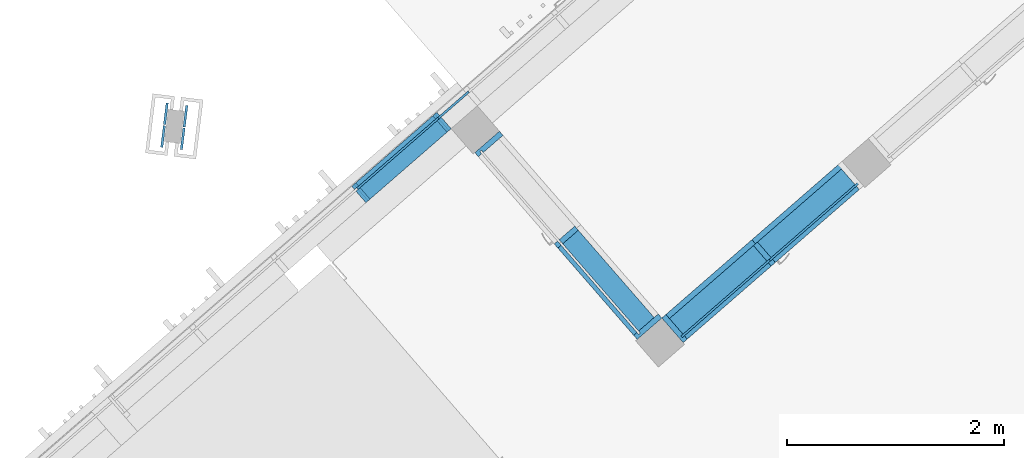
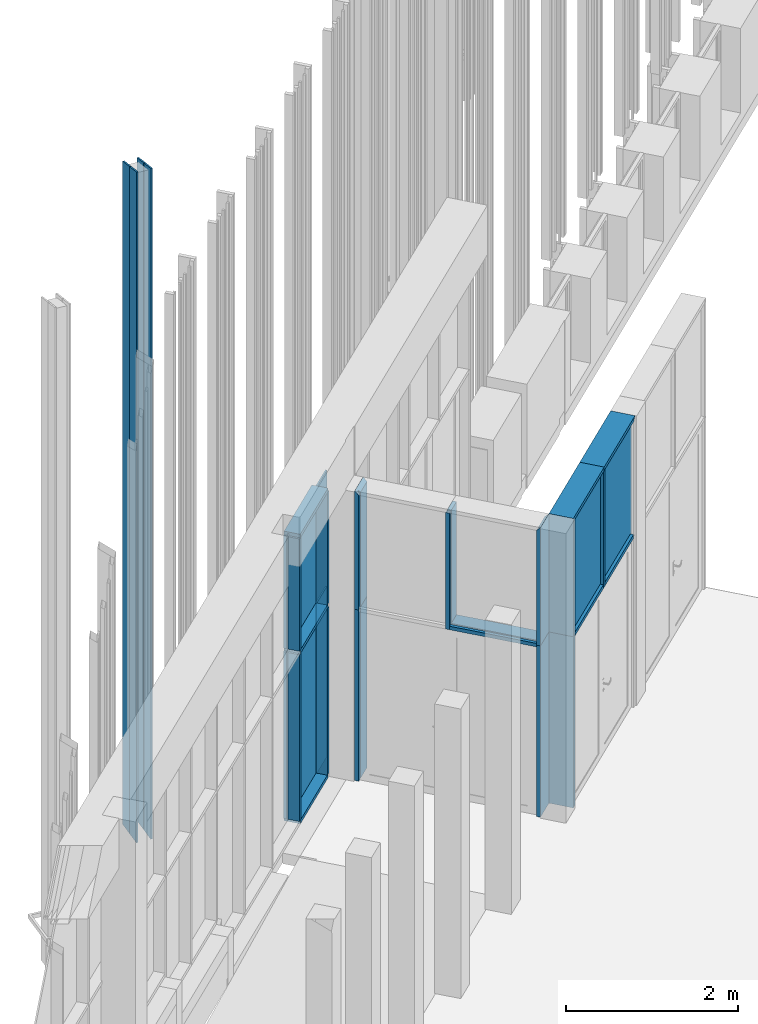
# One storey, part 43 of 390: 30 discrete accessories, 3 elements without a shape of their own.
"""IFC2X3 building model written with IfcOpenShell, lengths in millimetres."""

import ifcopenshell
import ifcopenshell.guid

model = None  # the IFC model being written
_history = None  # IfcOwnerHistory: only IFC2X3 demands one
_inside = {}  # id of a spatial element -> (the spatial element, [elements in it])
_under = {}  # id of a project, library or spatial element -> (it, [spatial elements below it])
_declared = {}  # id of a project -> (the project, [libraries it declares])
_typed = {}  # id of a type object -> (the type object, [elements of that type])
_made_of = {}  # id of a material, layer set ... -> (it, [elements and type objects made of it])


def new_model(schema):
    """Start an empty IFC model of exactly this schema.

    Asked for "IFC4X3", IfcOpenShell would pick the latest addendum, in which some entities
    have other attributes; the version numbers below select the first issue.
    IFC2X3 requires an IfcOwnerHistory on every rooted entity: one is made here for all.
    """
    global model, _history
    if schema == "IFC4X3":
        model = ifcopenshell.file(schema_version=(4, 3, 0, 0))
    else:
        model = ifcopenshell.file(schema=schema)
    _inside.clear()
    _under.clear()
    _declared.clear()
    _typed.clear()
    _made_of.clear()
    _history = None
    if model.schema == "IFC2X3":
        org = make("IfcOrganization", Name="unknown")
        user = make(
            "IfcPersonAndOrganization",
            ThePerson=make("IfcPerson", FamilyName="unknown"),
            TheOrganization=org,
        )
        app = make(
            "IfcApplication",
            ApplicationDeveloper=org,
            Version="unknown",
            ApplicationFullName="unknown",
            ApplicationIdentifier="unknown",
        )
        _history = make(
            "IfcOwnerHistory",
            OwningUser=user,
            OwningApplication=app,
            ChangeAction="ADDED",
            CreationDate=0,
        )
    return model


def make(cls, **values):
    """One entity of the class cls with the attributes given. An attribute that is None is left unset."""
    return model.create_entity(
        cls, **{name: value for name, value in values.items() if value is not None}
    )


def entity(cls, *values):
    """Any entity or typed value of the class cls, its attributes in the order of the schema. None: left unset."""
    e = model.create_entity(cls)
    for i, value in enumerate(values):
        if value is not None:
            e[i] = value
    return e


def rooted(cls, **values):
    """An entity with a GlobalId (a new one), such as an element, a storey or a relation."""
    return make(cls, GlobalId=ifcopenshell.guid.new(), OwnerHistory=_history, **values)


def si_unit(unit_type, name, prefix=None):
    """IfcSIUnit, for example si_unit("LENGTHUNIT", "METRE", prefix="MILLI")."""
    return make("IfcSIUnit", UnitType=unit_type, Prefix=prefix, Name=name)


def converted_unit(unit_type, name, factor, base, dimensions=None, offset=None):
    """IfcConversionBasedUnit, such as the inch: factor (a typed value) times the base unit."""
    return make(
        "IfcConversionBasedUnit"
        if offset is None
        else "IfcConversionBasedUnitWithOffset",
        ConversionOffset=offset,
        Dimensions=None
        if dimensions is None
        else entity("IfcDimensionalExponents", *dimensions),
        UnitType=unit_type,
        Name=name,
        ConversionFactor=make(
            "IfcMeasureWithUnit", ValueComponent=factor, UnitComponent=base
        ),
    )


def derived_unit(unit_type, elements):
    """IfcDerivedUnit: a product of units, each with its exponent."""
    return make(
        "IfcDerivedUnit",
        Elements=[
            make("IfcDerivedUnitElement", Unit=unit, Exponent=power)
            for unit, power in elements
        ],
        UnitType=unit_type,
    )


def money_unit(currency):
    """IfcMonetaryUnit."""
    return make("IfcMonetaryUnit", Currency=currency)


def assignment(units):
    """IfcUnitAssignment: the units of a project."""
    return None if units is None else make("IfcUnitAssignment", Units=units)


def point(xyz):
    """IfcCartesianPoint."""
    return None if xyz is None else make("IfcCartesianPoint", Coordinates=xyz)


def direction(xyz):
    """IfcDirection."""
    return None if xyz is None else make("IfcDirection", DirectionRatios=xyz)


def frame(location, z_axis=None, x_axis=None):
    """IfcAxis2Placement3D, a coordinate frame: its origin and axes. An axis left out is left unset."""
    return make(
        "IfcAxis2Placement3D",
        Location=point(location),
        Axis=direction(z_axis),
        RefDirection=direction(x_axis),
    )


def origin_with_axes():
    """The frame at (0, 0, 0) with the z axis (0, 0, 1) and the x axis (1, 0, 0) written out."""
    return frame((0.0, 0.0, 0.0), z_axis=(0.0, 0.0, 1.0), x_axis=(1.0, 0.0, 0.0))


def place(relative_to, where):
    """IfcLocalPlacement: puts the frame where relative to a parent placement (None: the world)."""
    return make(
        "IfcLocalPlacement", PlacementRelTo=relative_to, RelativePlacement=where
    )


def context(
    kind, dimensions, precision=None, world=None, true_north=None, identifier=None
):
    """IfcGeometricRepresentationContext, for example the 3D "Model" context."""
    return make(
        "IfcGeometricRepresentationContext",
        ContextIdentifier=identifier,
        ContextType=kind,
        CoordinateSpaceDimension=dimensions,
        Precision=precision,
        WorldCoordinateSystem=world,
        TrueNorth=true_north,
    )


def subcontext(parent, identifier, kind, view, scale=None):
    """IfcGeometricRepresentationSubContext, for example "Body" below "Model"."""
    return make(
        "IfcGeometricRepresentationSubContext",
        ContextIdentifier=identifier,
        ContextType=kind,
        ParentContext=parent,
        TargetScale=scale,
        TargetView=view,
    )


def project(units=None, contexts=None):
    """IfcProject with its units and contexts."""
    return rooted(
        "IfcProject",
        Name="project",
        RepresentationContexts=contexts,
        UnitsInContext=assignment(units),
    )


def spatial(cls, under=None, at=None, **own):
    """A site, building, storey or space (cls), placed at a placement, below another one or the project."""
    s = rooted(cls, ObjectPlacement=at, **own)
    if under is not None:
        _under.setdefault(under.id(), (under, []))[1].append(s)
    return s


def polyline(points):
    """IfcPolyline through the points."""
    return make("IfcPolyline", Points=[point(p) for p in points])


def outline(outer, holes=None, kind="AREA"):
    """IfcArbitraryClosedProfileDef: a profile drawn as a closed curve; with holes, ...WithVoids."""
    if holes is None:
        return make("IfcArbitraryClosedProfileDef", ProfileType=kind, OuterCurve=outer)
    return make(
        "IfcArbitraryProfileDefWithVoids",
        ProfileType=kind,
        OuterCurve=outer,
        InnerCurves=holes,
    )


def extrude(swept, where, along, depth):
    """IfcExtrudedAreaSolid: the profile swept, set in the frame where, extruded along a direction by depth."""
    return make(
        "IfcExtrudedAreaSolid",
        SweptArea=swept,
        Position=where,
        ExtrudedDirection=direction(along),
        Depth=depth,
    )


def clip(a, b, op="DIFFERENCE"):
    """IfcBooleanClippingResult: the solid a cut by the half space b."""
    return make(
        "IfcBooleanClippingResult", Operator=op, FirstOperand=a, SecondOperand=b
    )


def halfspace(plane, agree):
    """IfcHalfSpaceSolid: all space on one side of the plane z = 0 of the frame plane."""
    return make(
        "IfcHalfSpaceSolid",
        BaseSurface=make("IfcPlane", Position=plane),
        AgreementFlag=agree,
    )


def faces_of(points, faces, orient=None, outer=None):
    """IfcFace entities. A face is a list of loops; a loop is a list of indices into points, from 0.

    orient and outer hold one flag for each loop. By default every Orientation is true, the
    first loop of a face is its IfcFaceOuterBound and the others are IfcFaceBound.
    """
    made = []
    for i, loops in enumerate(faces):
        bounds = []
        for j, loop in enumerate(loops):
            is_outer = j == 0 if outer is None else outer[i][j]
            bounds.append(
                make(
                    "IfcFaceOuterBound" if is_outer else "IfcFaceBound",
                    Bound=make("IfcPolyLoop", Polygon=[points[k] for k in loop]),
                    Orientation=True if orient is None else orient[i][j],
                )
            )
        made.append(make("IfcFace", Bounds=bounds))
    return made


def faceted_brep(points, faces, orient=None, outer=None, voids=None):
    """IfcFacetedBrep: a solid bounded by flat faces; with voids (closed shells), ...WithVoids."""
    shared = [point(p) for p in points]
    hull = make("IfcClosedShell", CfsFaces=faces_of(shared, faces, orient, outer))
    if voids is None:
        return make("IfcFacetedBrep", Outer=hull)
    return make(
        "IfcFacetedBrepWithVoids",
        Outer=hull,
        Voids=[
            make(cls, CfsFaces=faces_of(shared, fs, o, b)) for cls, fs, o, b in voids
        ],
    )


def shape(context_of_items, identifier, shape_type, items):
    """IfcShapeRepresentation: the items that make up one representation, for example the "Body"."""
    return make(
        "IfcShapeRepresentation",
        ContextOfItems=context_of_items,
        RepresentationIdentifier=identifier,
        RepresentationType=shape_type,
        Items=items,
    )


def source(mapping_origin, context_of_items, identifier, shape_type, items):
    """IfcRepresentationMap: a shape defined once, which mapped items show again and again."""
    return make(
        "IfcRepresentationMap",
        MappingOrigin=mapping_origin,
        MappedRepresentation=shape(context_of_items, identifier, shape_type, items),
    )


def transform(
    local_origin,
    x_axis=None,
    y_axis=None,
    z_axis=None,
    scale=None,
    scale2=None,
    scale3=None,
    uniform=True,
):
    """IfcCartesianTransformationOperator3D, or its non-uniform kind. x_axis, y_axis, z_axis: its Axis1, 2, 3."""
    if uniform:
        return make(
            "IfcCartesianTransformationOperator3D",
            Axis1=direction(x_axis),
            Axis2=direction(y_axis),
            LocalOrigin=point(local_origin),
            Scale=scale,
            Axis3=direction(z_axis),
        )
    return make(
        "IfcCartesianTransformationOperator3DnonUniform",
        Axis1=direction(x_axis),
        Axis2=direction(y_axis),
        LocalOrigin=point(local_origin),
        Scale=scale,
        Axis3=direction(z_axis),
        Scale2=scale2,
        Scale3=scale3,
    )


def mapped(mapping_source, mapping_target):
    """IfcMappedItem: shows the shape of a source again, moved by a transform."""
    return make(
        "IfcMappedItem", MappingSource=mapping_source, MappingTarget=mapping_target
    )


def material(Name=None, Category=None):
    """IfcMaterial."""
    return make("IfcMaterial", Name=Name, Category=Category)


def material_list(materials):
    """IfcMaterialList."""
    return make("IfcMaterialList", Materials=materials)


def made_of(thing, what):
    """Note that an element or type object is made of a material, layer set ...; save() writes the relation."""
    if what is not None:
        _made_of.setdefault(what.id(), (what, []))[1].append(thing)
    return thing


def type_object(cls, material=None, **own):
    """A type object (cls), such as IfcWallType, which elements share."""
    return made_of(rooted(cls, **own), material)


def element(
    cls,
    number,
    at=None,
    inside=None,
    cuts=None,
    type_object=None,
    material=None,
    context=None,
    identifier="Body",
    shape_type=None,
    held_by="IfcProductDefinitionShape",
    body=None,
    shapes=None,
    **own,
):
    """One element of the class cls, such as IfcWall. Its Tag is "e" and its number.

    at: its placement. inside: the storey or other place that contains it. cuts: it is an
    opening in that element (IfcRelVoidsElement). A single representation is given by context,
    identifier, shape_type and body (its items); several are given by shapes. held_by: the class
    of the entity that holds the representations. save() writes the other relations.
    """
    e = rooted(cls, Tag="e%d" % number, ObjectPlacement=at, **own)
    if body is not None:
        shapes = [shape(context, identifier, shape_type, body)]
    if shapes is not None:
        e.Representation = make(held_by, Representations=shapes)
    if inside is not None:
        _inside.setdefault(inside.id(), (inside, []))[1].append(e)
    if cuts is not None:
        rooted(
            "IfcRelVoidsElement", RelatingBuildingElement=cuts, RelatedOpeningElement=e
        )
    if type_object is not None:
        _typed.setdefault(type_object.id(), (type_object, []))[1].append(e)
    return made_of(e, material)


def aggregate(whole, parts):
    """IfcRelAggregates: a whole, such as a stair, and the parts it consists of."""
    return rooted("IfcRelAggregates", RelatingObject=whole, RelatedObjects=parts)


def save(model, path):
    """Write the relations noted so far, then the file.

    IfcRelAggregates (storeys below a building ...), IfcRelContainedInSpatialStructure (elements
    in a storey), IfcRelDefinesByType, IfcRelAssociatesMaterial and IfcRelDeclares: one each for
    every whole, place, type object, material and project.
    """
    for whole, parts in _under.values():
        aggregate(whole, parts)
    for where, things in _inside.values():
        rooted(
            "IfcRelContainedInSpatialStructure",
            RelatedElements=things,
            RelatingStructure=where,
        )
    for kind, things in _typed.values():
        rooted("IfcRelDefinesByType", RelatedObjects=things, RelatingType=kind)
    for what, things in _made_of.values():
        rooted("IfcRelAssociatesMaterial", RelatedObjects=things, RelatingMaterial=what)
    for by, libraries in _declared.values():
        rooted("IfcRelDeclares", RelatingContext=by, RelatedDefinitions=libraries)
    model.write(path)


model = new_model("IFC2X3")

# Units and contexts
model_context = context("Model", 3, precision=1e-05, world=origin_with_axes(), true_north=direction((0.0, 1.0)))
body_context = subcontext(model_context, "Body", "Model", "MODEL_VIEW")
ifc_project = project(units=[si_unit("LENGTHUNIT", "METRE", prefix="MILLI"), si_unit("AREAUNIT", "SQUARE_METRE"), si_unit("VOLUMEUNIT", "CUBIC_METRE"), converted_unit("PLANEANGLEUNIT", "DEGREE", entity("IfcPlaneAngleMeasure", 0.0174532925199), si_unit("PLANEANGLEUNIT", "RADIAN"), dimensions=[0, 0, 0, 0, 0, 0, 0]), si_unit("SOLIDANGLEUNIT", "STERADIAN"), money_unit("EUR"), converted_unit("TIMEUNIT", "Year", entity("IfcTimeMeasure", 31556926.0), si_unit("TIMEUNIT", "SECOND"), dimensions=[0, 0, 1, 0, 0, 0, 0]), si_unit("MASSUNIT", "GRAM", prefix="KILO"), si_unit("THERMODYNAMICTEMPERATUREUNIT", "DEGREE_CELSIUS"), si_unit("LUMINOUSINTENSITYUNIT", "LUMEN"), si_unit("ENERGYUNIT", "JOULE", prefix="MEGA"), derived_unit("THERMALCONDUCTANCEUNIT", [(si_unit("POWERUNIT", "WATT"), 1), (si_unit("LENGTHUNIT", "METRE"), -1), (si_unit("THERMODYNAMICTEMPERATUREUNIT", "KELVIN"), -1)]), derived_unit("SPECIFICHEATCAPACITYUNIT", [(si_unit("ENERGYUNIT", "JOULE"), 1), (si_unit("MASSUNIT", "GRAM", prefix="KILO"), -1), (si_unit("THERMODYNAMICTEMPERATUREUNIT", "KELVIN"), -1)]), derived_unit("MASSDENSITYUNIT", [(si_unit("MASSUNIT", "GRAM", prefix="KILO"), 1), (si_unit("VOLUMEUNIT", "CUBIC_METRE"), -1)])], contexts=[model_context])

# Site, building, storey
site_placement = place(None, origin_with_axes())
site = spatial("IfcSite", under=ifc_project, at=site_placement, Name="Site", CompositionType="ELEMENT")
building_placement = place(site_placement, origin_with_axes())
building = spatial("IfcBuilding", under=site, at=building_placement, Name="Building", CompositionType="ELEMENT")
storey_placement = place(building_placement, origin_with_axes())
storey = spatial("IfcBuildingStorey", under=building, at=storey_placement, Name="1 korrus", CompositionType="ELEMENT", Elevation=0.0)

# Curtain wall, discrete accessories
curtain_wall_type_1 = type_object("IfcCurtainWallType", Name="KS-19", PredefinedType="NOTDEFINED")
curtain_wall_1_placement = place(storey_placement, frame((133652.123893, 83883.7618175, -5.55524941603e-05), z_axis=(0.0, 0.0, 1.0), x_axis=(1.0, 0.0, 0.0)))
curtain_wall_1 = element("IfcCurtainWall", 1, at=curtain_wall_1_placement, inside=storey, type_object=curtain_wall_type_1, Name="Klaasfassaad")
ifc_material_1 = material(Name="Aluminium MUST")
discrete_accessory_type_1 = type_object("IfcDiscreteAccessoryType", Name="50 x 300")
discrete_accessory_1_placement = place(curtain_wall_1_placement, frame((-747.907289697, 860.368924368, 2425.00005555), z_axis=(0.0, 0.0, 1.0), x_axis=(-0.65605902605, 0.754709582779, 0.0)))
discrete_accessory_1 = element("IfcDiscreteAccessory", 2, at=discrete_accessory_1_placement, type_object=discrete_accessory_type_1, material=ifc_material_1, Name="KS-19 profiil", context=body_context, shape_type="Clipping", body=[
    clip(extrude(outline(polyline([(23.9485714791, -12.307149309), (40.3500471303, -31.1748888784), (221.480346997, 126.279277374), (188.677395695, 164.014756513), (-37.7354791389, -32.8029513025), (-4.93252783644, -70.5384304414), (25.2558554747, -44.2960693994), (8.85437982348, -25.42832983), (23.9485714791, -12.307149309)])), frame((0.0, 0.0, 0.0), z_axis=(0.0, 0.0, 1.0), x_axis=(-0.65605902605, -0.754709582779, 0.0)), (0.0, 0.0, 1.0), 1674.99989815), halfspace(frame((-837.499949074, 0.0, 837.499949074), z_axis=(0.707106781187, 0.0, -0.707106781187), x_axis=(0.0, 1.0, 0.0)), True)),
])
discrete_accessory_2_placement = place(curtain_wall_1_placement, frame((-747.907289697, 860.368924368, 0.0), z_axis=(0.0, 0.0, 1.0), x_axis=(-0.65605902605, 0.754709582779, 0.0)))
discrete_accessory_2 = element("IfcDiscreteAccessory", 3, at=discrete_accessory_2_placement, type_object=discrete_accessory_type_1, material=ifc_material_1, Name="KS-19 profiil", context=body_context, shape_type="SweptSolid", body=[
    extrude(outline(polyline([(23.9485714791, -12.307149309), (40.3500471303, -31.1748888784), (221.480346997, 126.279277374), (188.677395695, 164.014756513), (-37.7354791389, -32.8029513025), (-4.93252783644, -70.5384304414), (25.2558554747, -44.2960693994), (8.85437982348, -25.42832983), (23.9485714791, -12.307149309)])), frame((0.0, 0.0, 0.0), z_axis=(0.0, 0.0, 1.0), x_axis=(-0.65605902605, -0.754709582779, 0.0)), (0.0, 0.0, 1.0), 2425.00005555),
])
discrete_accessory_3_placement = place(curtain_wall_1_placement, frame((747.907289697, -860.368924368, 0.0), z_axis=(0.0, 0.0, 1.0), x_axis=(-0.65605902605, 0.754709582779, 0.0)))
discrete_accessory_3 = element("IfcDiscreteAccessory", 4, at=discrete_accessory_3_placement, type_object=discrete_accessory_type_1, material=ifc_material_1, Name="KS-19 profiil", context=body_context, shape_type="SweptSolid", body=[
    extrude(outline(polyline([(-8.85437982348, 25.42832983), (-23.9485714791, 12.307149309), (-40.3500471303, 31.1748888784), (-70.5384304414, 4.93252783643), (-37.7354791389, -32.8029513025), (188.677395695, 164.014756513), (155.874444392, 201.750235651), (-25.2558554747, 44.2960693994), (-8.85437982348, 25.42832983)])), frame((0.0, 0.0, 0.0), z_axis=(0.0, 0.0, 1.0), x_axis=(-0.65605902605, -0.754709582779, 0.0)), (0.0, 0.0, 1.0), 2425.00005555),
])
discrete_accessory_4_placement = place(curtain_wall_1_placement, frame((747.907289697, -860.368924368, 2425.00005555), z_axis=(0.0, 0.0, 1.0), x_axis=(-0.65605902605, 0.754709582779, 0.0)))
discrete_accessory_4 = element("IfcDiscreteAccessory", 5, at=discrete_accessory_4_placement, type_object=discrete_accessory_type_1, material=ifc_material_1, Name="KS-19 profiil", context=body_context, shape_type="Clipping", body=[
    clip(extrude(outline(polyline([(-8.85437982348, 25.42832983), (-23.9485714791, 12.307149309), (-40.3500471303, 31.1748888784), (-70.5384304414, 4.93252783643), (-37.7354791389, -32.8029513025), (188.677395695, 164.014756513), (155.874444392, 201.750235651), (-25.2558554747, 44.2960693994), (-8.85437982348, 25.42832983)])), frame((0.0, 0.0, 0.0), z_axis=(0.0, 0.0, 1.0), x_axis=(-0.65605902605, -0.754709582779, 0.0)), (0.0, 0.0, 1.0), 1674.99989815), halfspace(frame((837.499949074, 0.0, 837.499949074), z_axis=(-0.707106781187, 0.0, -0.707106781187), x_axis=(0.0, 1.0, 0.0)), True)),
])
ifc_material_list_1 = material_list([ifc_material_1, ifc_material_1])
discrete_accessory_type_2 = type_object("IfcDiscreteAccessoryType", Name="50 x 250")
discrete_accessory_5_placement = place(curtain_wall_1_placement, frame((0.0, 0.0, 2425.00005555), z_axis=(0.0, 0.0, 1.0), x_axis=(-0.65605902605, 0.754709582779, 0.0)))
discrete_accessory_5 = element("IfcDiscreteAccessory", 6, at=discrete_accessory_5_placement, type_object=discrete_accessory_type_2, material=ifc_material_list_1, Name="KS-19 profiil", context=body_context, shape_type="SweptSolid", body=[
    extrude(outline(polyline([(23.9485714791, -12.307149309), (167.343392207, 112.344065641), (134.540440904, 150.07954478), (-8.85437982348, 25.42832983), (23.9485714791, -12.307149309)])), frame((0.0, 0.0, -25.0), z_axis=(0.0, 0.0, 1.0), x_axis=(-0.65605902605, -0.754709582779, 0.0)), (0.0, 0.0, 1.0), 1649.99989815),
    extrude(outline(polyline([(8.85437982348, -25.42832983), (-23.9485714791, 12.307149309), (-54.1369547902, -13.935211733), (-21.3340034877, -51.670690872), (8.85437982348, -25.42832983)])), frame((0.0, 0.0, -25.0), z_axis=(0.0, 0.0, 1.0), x_axis=(-0.65605902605, -0.754709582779, 0.0)), (0.0, 0.0, 1.0), 1649.99989815),
])
discrete_accessory_6_placement = place(curtain_wall_1_placement, frame((0.0, 0.0, 2425.00005555), z_axis=(0.65605902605, -0.754709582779, 0.0), x_axis=(0.0, 0.0, 1.0)))
discrete_accessory_6 = element("IfcDiscreteAccessory", 7, at=discrete_accessory_6_placement, type_object=discrete_accessory_type_2, material=ifc_material_list_1, Name="KS-19 profiil", context=body_context, shape_type="SweptSolid", body=[
    extrude(outline(polyline([(-9.99999999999, 25.0), (-200.0, 25.0), (-200.0, -25.0), (-9.99999999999, -25.0), (-9.99999999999, 25.0)])), frame((0.0, 0.0, 25.0), z_axis=(0.0, 0.0, 1.0), x_axis=(0.0, 1.0, 0.0)), (0.0, 0.0, 1.0), 1065.0),
    extrude(outline(polyline([(9.99999999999, 25.0), (9.99999999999, -25.0), (50.0, -25.0), (50.0, 25.0), (9.99999999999, 25.0)])), frame((0.0, 0.0, 25.0), z_axis=(0.0, 0.0, 1.0), x_axis=(0.0, 1.0, 0.0)), (0.0, 0.0, 1.0), 1065.0),
])
aggregate(curtain_wall_1, [discrete_accessory_1, discrete_accessory_2, discrete_accessory_5, discrete_accessory_3, discrete_accessory_4, discrete_accessory_6])

# Discrete accessories
ifc_material_2 = material(Name="GENEERILINE - VÄLINE VOODER")
discrete_accessory_type_3 = type_object("IfcDiscreteAccessoryType", Name="GENEERILINE - VÄLINE VOODER")
shared_shape_1 = source(origin_with_axes(), body_context, "Body", "Brep", [
    faceted_brep([(162190.360855, 119453.798876, 100.0), (162190.360855, 119453.798876, 9600.0), (162168.524839, 119456.480002, 9600.0), (162168.524839, 119456.480002, 100.0), (162214.734723, 119652.308107, 100.0), (162214.734723, 119652.308107, 9546.41016151), (162192.898708, 119654.989232, 9546.41016151), (162192.898708, 119654.989232, 100.0)], [[[0, 1, 2, 3]], [[1, 0, 4, 5]], [[2, 1, 5, 6]], [[3, 2, 6, 7]], [[0, 3, 7, 4]], [[7, 6, 5, 4]]]),
])
discrete_accessory_7_placement = place(storey_placement, frame((-32197.0259335, -34694.5735034, 0.0), z_axis=(0.0, 0.0, 1.0), x_axis=(1.0, 0.0, 0.0)))
element("IfcDiscreteAccessory", 8, at=discrete_accessory_7_placement, inside=storey, type_object=discrete_accessory_type_3, material=ifc_material_2, Name="Päikesevarjestuspost", context=body_context, shape_type="MappedRepresentation", body=[
    mapped(shared_shape_1, transform((0.0, 0.0, 0.0))),
])
shared_shape_2 = source(origin_with_axes(), body_context, "Body", "Brep", [
    faceted_brep([(162194.117401, 119664.914694, 100.0), (162215.953417, 119662.233568, 100.0), (162215.953417, 119662.233568, 9543.73066959), (162194.117401, 119664.914694, 9543.73066959), (162218.49127, 119863.423924, 100.0), (162240.327285, 119860.742798, 100.0), (162240.327285, 119860.742798, 9490.1408311), (162218.49127, 119863.423924, 9490.1408311)], [[[0, 1, 2, 3]], [[1, 0, 4, 5]], [[2, 1, 5, 6]], [[3, 2, 6, 7]], [[0, 3, 7, 4]], [[4, 7, 6, 5]]]),
])
discrete_accessory_8_placement = place(storey_placement, frame((-32197.0259335, -34694.5735034, 0.0), z_axis=(0.0, 0.0, 1.0), x_axis=(1.0, 0.0, 0.0)))
element("IfcDiscreteAccessory", 9, at=discrete_accessory_8_placement, inside=storey, type_object=discrete_accessory_type_3, material=ifc_material_2, Name="Päikesevarjestuspost", context=body_context, shape_type="MappedRepresentation", body=[
    mapped(shared_shape_2, transform((0.0, 0.0, 0.0))),
])
shared_shape_3 = source(origin_with_axes(), body_context, "Body", "Brep", [
    faceted_brep([(-162194.117401, 119664.914694, 100.0), (-162194.117401, 119664.914694, 9543.73066959), (-162215.953417, 119662.233568, 9543.73066959), (-162215.953417, 119662.233568, 100.0), (-162218.49127, 119863.423924, 100.0), (-162218.49127, 119863.423924, 9490.1408311), (-162240.327285, 119860.742798, 9490.1408311), (-162240.327285, 119860.742798, 100.0)], [[[0, 1, 2, 3]], [[0, 4, 5, 1]], [[1, 5, 6, 2]], [[2, 6, 7, 3]], [[3, 7, 4, 0]], [[4, 7, 6, 5]]]),
])
discrete_accessory_9_placement = place(storey_placement, frame((258626.266851, -70403.1837837, 0.0), z_axis=(0.0, 0.0, 1.0), x_axis=(0.970295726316, -0.241921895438, 0.0)))
element("IfcDiscreteAccessory", 10, at=discrete_accessory_9_placement, inside=storey, type_object=discrete_accessory_type_3, material=ifc_material_2, Name="Päikesevarjestuspost", context=body_context, shape_type="MappedRepresentation", body=[
    mapped(shared_shape_3, transform((0.0, 0.0, 0.0))),
])
shared_shape_4 = source(origin_with_axes(), body_context, "Body", "Brep", [
    faceted_brep([(-162190.360855, 119453.798876, 100.0), (-162168.524839, 119456.480002, 100.0), (-162168.524839, 119456.480002, 9600.0), (-162190.360855, 119453.798876, 9600.0), (-162214.734723, 119652.308107, 100.0), (-162192.898708, 119654.989232, 100.0), (-162192.898708, 119654.989232, 9546.41016151), (-162214.734723, 119652.308107, 9546.41016151)], [[[0, 1, 2, 3]], [[0, 4, 5, 1]], [[1, 5, 6, 2]], [[2, 6, 7, 3]], [[3, 7, 4, 0]], [[5, 4, 7, 6]]]),
])
discrete_accessory_10_placement = place(storey_placement, frame((258626.266851, -70403.1837837, 0.0), z_axis=(0.0, 0.0, 1.0), x_axis=(0.970295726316, -0.241921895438, 0.0)))
element("IfcDiscreteAccessory", 11, at=discrete_accessory_10_placement, inside=storey, type_object=discrete_accessory_type_3, material=ifc_material_2, Name="Päikesevarjestuspost", context=body_context, shape_type="MappedRepresentation", body=[
    mapped(shared_shape_4, transform((0.0, 0.0, 0.0))),
])

# Curtain wall, discrete accessories
curtain_wall_type_2 = type_object("IfcCurtainWallType", Name="KS-18", PredefinedType="NOTDEFINED")
curtain_wall_2_placement = place(storey_placement, frame((135582.903827, 83720.3952404, -5.55524941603e-05), z_axis=(0.0, 0.0, 1.0), x_axis=(1.0, 0.0, 0.0)))
curtain_wall_2 = element("IfcCurtainWall", 12, at=curtain_wall_2_placement, inside=storey, type_object=curtain_wall_type_2, Name="Klaas-sein")
ifc_material_3 = material(Name="Klaas")
discrete_accessory_type_4 = type_object("IfcDiscreteAccessoryType", Name="Main Panel 1080 x 1655 x 20")
discrete_accessory_11_placement = place(curtain_wall_2_placement, frame((415.090268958, 360.832466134, 3262.50000463), z_axis=(0.0, 0.0, 1.0), x_axis=(0.754709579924, 0.656059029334, 0.0)))
discrete_accessory_11 = element("IfcDiscreteAccessory", 13, at=discrete_accessory_11_placement, type_object=discrete_accessory_type_4, material=ifc_material_3, Name="KS-18 klaaspakett", context=body_context, shape_type="SweptSolid", body=[
    extrude(outline(polyline([(-549.999989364, -817.499952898), (530.000003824, -817.499952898), (530.000003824, 837.499949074), (-549.999989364, 837.499949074), (-549.999989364, -817.499952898)])), frame((0.0, -9.99999999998, 0.0), z_axis=(0.0, 1.0, 0.0), x_axis=(1.0, 0.0, 0.0)), (0.0, 0.0, 1.0), 20.0),
])
discrete_accessory_type_5 = type_object("IfcDiscreteAccessoryType", Name="Distinct Panel 1080 x 1655 x 20")
discrete_accessory_12_placement = place(curtain_wall_2_placement, frame((-415.090268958, -360.832466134, 3262.50000463), z_axis=(0.0, 0.0, 1.0), x_axis=(0.754709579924, 0.656059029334, 0.0)))
discrete_accessory_12 = element("IfcDiscreteAccessory", 14, at=discrete_accessory_12_placement, type_object=discrete_accessory_type_5, material=ifc_material_3, Name="KS-18 klaaspakett", context=body_context, shape_type="SweptSolid", body=[
    extrude(outline(polyline([(-529.999993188, -817.499952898), (550.0, -817.499952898), (550.0, 837.499949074), (-529.999993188, 837.499949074), (-529.999993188, -817.499952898)])), frame((0.0, -9.99999999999, 0.0), z_axis=(0.0, 1.0, 0.0), x_axis=(1.0, 0.0, 0.0)), (0.0, 0.0, 1.0), 20.0),
])
discrete_accessory_type_6 = type_object("IfcDiscreteAccessoryType", Name="50 x 300")
discrete_accessory_13_placement = place(curtain_wall_2_placement, frame((-830.180537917, -721.664932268, 4099.9999537), z_axis=(0.754709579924, 0.656059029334, 0.0), x_axis=(0.0, 0.0, -1.0)))
discrete_accessory_13 = element("IfcDiscreteAccessory", 15, at=discrete_accessory_13_placement, type_object=discrete_accessory_type_6, material=ifc_material_1, Name="KS-18 profiil", context=body_context, shape_type="Clipping", body=[
    clip(extrude(outline(polyline([(-10.0, 25.0), (-10.0, 50.0), (-250.0, 50.0), (-250.0, 0.0), (50.0, 0.0), (50.0, 50.0), (9.99999999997, 50.0), (9.99999999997, 25.0), (-10.0, 25.0)])), frame((0.0, 0.0, 0.0), z_axis=(0.0, 0.0, 1.0), x_axis=(0.0, -1.0, 0.0)), (0.0, 0.0, 1.0), 1100.0), halfspace(frame((0.0, 0.0, 0.0), z_axis=(-0.707106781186, 0.0, 0.707106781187), x_axis=(0.0, -1.0, 0.0)), True)),
])
discrete_accessory_14_placement = place(curtain_wall_2_placement, frame((-830.180537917, -721.664932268, 2425.00005555), z_axis=(0.0, 0.0, 1.0), x_axis=(0.754709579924, 0.656059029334, 0.0)))
discrete_accessory_14 = element("IfcDiscreteAccessory", 16, at=discrete_accessory_14_placement, type_object=discrete_accessory_type_6, material=ifc_material_1, Name="KS-18 profiil", context=body_context, shape_type="Clipping", body=[
    clip(extrude(outline(polyline([(12.3071492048, 23.9485715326), (31.1748887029, 40.350047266), (-126.279278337, 221.480346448), (-164.014757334, 188.677394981), (32.8029514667, -37.7354789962), (70.5384304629, -4.9325275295), (44.2960692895, 25.2558556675), (25.4283297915, 8.85437993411), (12.3071492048, 23.9485715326)])), frame((0.0, 0.0, 0.0), z_axis=(0.0, 0.0, 1.0), x_axis=(0.754709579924, -0.656059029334, 0.0)), (0.0, 0.0, 1.0), 1674.99989815), halfspace(frame((837.499949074, 0.0, 837.499949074), z_axis=(-0.707106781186, 0.0, -0.707106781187), x_axis=(0.0, 1.0, 0.0)), True)),
])
discrete_accessory_15_placement = place(curtain_wall_2_placement, frame((0.0, 0.0, 4099.9999537), z_axis=(0.754709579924, 0.656059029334, 0.0), x_axis=(0.0, 0.0, -1.0)))
discrete_accessory_15 = element("IfcDiscreteAccessory", 17, at=discrete_accessory_15_placement, type_object=discrete_accessory_type_6, material=ifc_material_1, Name="KS-18 profiil", context=body_context, shape_type="Clipping", body=[
    clip(extrude(outline(polyline([(-9.99999999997, 25.0), (-10.0, 50.0), (-250.0, 50.0), (-250.0, 0.0), (50.0, 0.0), (50.0, 50.0), (10.0, 50.0), (10.0, 25.0), (-9.99999999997, 25.0)])), frame((0.0, 0.0, 0.0), z_axis=(0.0, 0.0, 1.0), x_axis=(0.0, -1.0, 0.0)), (0.0, 0.0, 1.0), 1100.0), halfspace(frame((550.0, 0.0, 550.0), z_axis=(-0.707106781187, 0.0, -0.707106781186), x_axis=(0.0, 1.0, 0.0)), True)),
])
discrete_accessory_16_placement = place(curtain_wall_2_placement, frame((-830.180537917, -721.664932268, 0.0), z_axis=(0.0, 0.0, 1.0), x_axis=(0.754709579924, 0.656059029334, 0.0)))
discrete_accessory_16 = element("IfcDiscreteAccessory", 18, at=discrete_accessory_16_placement, type_object=discrete_accessory_type_6, material=ifc_material_1, Name="KS-18 profiil", context=body_context, shape_type="SweptSolid", body=[
    extrude(outline(polyline([(12.3071492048, 23.9485715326), (31.1748887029, 40.3500472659), (-126.279278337, 221.480346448), (-164.014757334, 188.677394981), (32.8029514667, -37.7354789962), (70.5384304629, -4.9325275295), (44.2960692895, 25.2558556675), (25.4283297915, 8.85437993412), (12.3071492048, 23.9485715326)])), frame((0.0, 0.0, 0.0), z_axis=(0.0, 0.0, 1.0), x_axis=(0.754709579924, -0.656059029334, 0.0)), (0.0, 0.0, 1.0), 2425.00005555),
])
discrete_accessory_type_7 = type_object("IfcDiscreteAccessoryType", Name="50 x 250")
discrete_accessory_17_placement = place(curtain_wall_2_placement, frame((0.0, 0.0, 2425.00005555), z_axis=(0.0, 0.0, 1.0), x_axis=(0.754709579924, 0.656059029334, 0.0)))
discrete_accessory_17 = element("IfcDiscreteAccessory", 19, at=discrete_accessory_17_placement, type_object=discrete_accessory_type_7, material=ifc_material_list_1, Name="KS-18 profiil", context=body_context, shape_type="SweptSolid", body=[
    extrude(outline(polyline([(12.3071492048, 23.9485715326), (-112.344066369, 167.343391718), (-150.079545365, 134.540440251), (-25.4283297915, -8.85437993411), (12.3071492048, 23.9485715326)])), frame((0.0, 0.0, -25.0), z_axis=(0.0, 0.0, 1.0), x_axis=(0.754709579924, -0.656059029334, 0.0)), (0.0, 0.0, 1.0), 1649.99989815),
    extrude(outline(polyline([(-12.3071492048, -23.9485715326), (13.9352119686, -54.1369547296), (51.6706909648, -21.3340032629), (25.4283297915, 8.85437993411), (-12.3071492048, -23.9485715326)])), frame((0.0, 0.0, -25.0), z_axis=(0.0, 0.0, 1.0), x_axis=(0.754709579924, -0.656059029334, 0.0)), (0.0, 0.0, 1.0), 1649.99989815),
])
discrete_accessory_18_placement = place(curtain_wall_2_placement, frame((830.180537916, 721.664932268, 2425.00005555), z_axis=(-0.754709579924, -0.656059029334, 0.0), x_axis=(0.0, 0.0, 1.0)))
discrete_accessory_18 = element("IfcDiscreteAccessory", 20, at=discrete_accessory_18_placement, type_object=discrete_accessory_type_7, material=ifc_material_list_1, Name="KS-18 profiil", context=body_context, shape_type="SweptSolid", body=[
    extrude(outline(polyline([(9.99999999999, -25.0), (200.0, -25.0), (200.0, 25.0), (9.99999999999, 25.0), (9.99999999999, -25.0)])), frame((0.0, 0.0, 50.0), z_axis=(0.0, 0.0, 1.0), x_axis=(0.0, 1.0, 0.0)), (0.0, 0.0, 1.0), 1025.0),
    extrude(outline(polyline([(-9.99999999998, 25.0), (-50.0, 25.0), (-50.0, -25.0), (-9.99999999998, -25.0), (-9.99999999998, 25.0)])), frame((0.0, 0.0, 50.0000000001), z_axis=(0.0, 0.0, 1.0), x_axis=(0.0, 1.0, 0.0)), (0.0, 0.0, 1.0), 1025.0),
])
discrete_accessory_19_placement = place(curtain_wall_2_placement, frame((0.0, 0.0, 2425.00005555), z_axis=(-0.754709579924, -0.656059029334, 0.0), x_axis=(0.0, 0.0, 1.0)))
discrete_accessory_19 = element("IfcDiscreteAccessory", 21, at=discrete_accessory_19_placement, type_object=discrete_accessory_type_7, material=ifc_material_list_1, Name="KS-18 profiil", context=body_context, shape_type="SweptSolid", body=[
    extrude(outline(polyline([(9.99999999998, -25.0), (200.0, -25.0), (200.0, 25.0), (9.99999999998, 25.0), (9.99999999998, -25.0)])), frame((0.0, 0.0, 25.0), z_axis=(0.0, 0.0, 1.0), x_axis=(0.0, 1.0, 0.0)), (0.0, 0.0, 1.0), 1025.0),
    extrude(outline(polyline([(-9.99999999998, 25.0), (-50.0, 25.0), (-50.0, -25.0), (-9.99999999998, -25.0), (-9.99999999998, 25.0)])), frame((0.0, 0.0, 25.0), z_axis=(0.0, 0.0, 1.0), x_axis=(0.0, 1.0, 0.0)), (0.0, 0.0, 1.0), 1025.0),
])
aggregate(curtain_wall_2, [discrete_accessory_11, discrete_accessory_12, discrete_accessory_13, discrete_accessory_17, discrete_accessory_18, discrete_accessory_14, discrete_accessory_19, discrete_accessory_15, discrete_accessory_16])

curtain_wall_type_3 = type_object("IfcCurtainWallType", Name="KLF-16", PredefinedType="NOTDEFINED")
curtain_wall_3_placement = place(storey_placement, frame((129915.663376, 82755.7268841, -0.000187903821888), z_axis=(0.0, 0.0, 1.0), x_axis=(1.0, 0.0, 0.0)))
curtain_wall_3 = element("IfcCurtainWall", 22, at=curtain_wall_3_placement, inside=storey, type_object=curtain_wall_type_3, Name="Klaasfassaad")
discrete_accessory_type_8 = type_object("IfcDiscreteAccessoryType", Name="Distinct Panel 990 x 2415 x 20")
discrete_accessory_20_placement = place(curtain_wall_3_placement, frame((2241.48745232, 1948.49531718, 1217.50015939), z_axis=(0.0, 0.0, 1.0), x_axis=(0.754709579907, 0.656059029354, 0.0)))
discrete_accessory_20 = element("IfcDiscreteAccessory", 23, at=discrete_accessory_20_placement, type_object=discrete_accessory_type_8, material=ifc_material_3, Name="KLF-16 klaaspakett", context=body_context, shape_type="SweptSolid", body=[
    extrude(outline(polyline([(-494.999994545, -1217.50003011), (495.000015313, -1217.50003011), (495.000015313, 1197.49977743), (-494.999994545, 1197.49977743), (-494.999994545, -1217.50003011)])), frame((0.0, -10.0, 0.0), z_axis=(0.0, 1.0, 0.0), x_axis=(1.0, 0.0, 0.0)), (0.0, 0.0, 1.0), 20.0),
])
discrete_accessory_type_9 = type_object("IfcDiscreteAccessoryType", Name="Distinct Panel 370 x 2415 x 20")
discrete_accessory_21_placement = place(curtain_wall_3_placement, frame((2754.68996666, 2394.61545714, 1217.50015939), z_axis=(0.0, 0.0, 1.0), x_axis=(0.754709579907, 0.656059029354, 0.0)))
discrete_accessory_21 = element("IfcDiscreteAccessory", 24, at=discrete_accessory_21_placement, type_object=discrete_accessory_type_9, material=ifc_material_3, Name="KLF-16 klaaspakett", context=body_context, shape_type="SweptSolid", body=[
    extrude(outline(polyline([(-185.000017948, -1217.50002906), (185.000014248, -1217.50002906), (185.000014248, 1197.50028819), (-184.999981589, 1197.50003368), (-185.000017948, -1217.50002906)])), frame((0.0, -9.99999999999, 0.0), z_axis=(0.0, 1.0, 0.0), x_axis=(1.0, 0.0, 0.0)), (0.0, 0.0, 1.0), 20.0),
])
discrete_accessory_type_10 = type_object("IfcDiscreteAccessoryType", Name="Distinct Panel 370 x 1645 x 20")
discrete_accessory_22_placement = place(curtain_wall_3_placement, frame((2754.68996666, 2394.61545714, 3267.50003473), z_axis=(0.0, 0.0, 1.0), x_axis=(0.754709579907, 0.656059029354, 0.0)))
discrete_accessory_22 = element("IfcDiscreteAccessory", 25, at=discrete_accessory_22_placement, type_object=discrete_accessory_type_10, material=ifc_material_3, Name="KLF-16 klaaspakett", context=body_context, shape_type="SweptSolid", body=[
    extrude(outline(polyline([(-184.999990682, -812.499843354), (184.999999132, -812.499843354), (184.999999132, 832.499846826), (-184.999990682, 832.499846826), (-184.999990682, -812.499843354)])), frame((0.0, -9.99999999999, 0.0), z_axis=(0.0, 1.0, 0.0), x_axis=(1.0, 0.0, 0.0)), (0.0, 0.0, 1.0), 20.0),
])
discrete_accessory_type_11 = type_object("IfcDiscreteAccessoryType", Name="Distinct Panel 990 x 1645 x 20")
discrete_accessory_23_placement = place(curtain_wall_3_placement, frame((2241.48745232, 1948.49531718, 3267.50003473), z_axis=(0.0, 0.0, 1.0), x_axis=(0.754709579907, 0.656059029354, 0.0)))
discrete_accessory_23 = element("IfcDiscreteAccessory", 26, at=discrete_accessory_23_placement, type_object=discrete_accessory_type_11, material=ifc_material_3, Name="KLF-16 klaaspakett", context=body_context, shape_type="SweptSolid", body=[
    extrude(outline(polyline([(-494.999999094, -812.499843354), (494.999999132, -812.499843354), (494.999999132, 832.499846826), (-494.999999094, 832.499846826), (-494.999999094, -812.499843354)])), frame((0.0, -9.99999999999, 0.0), z_axis=(0.0, 1.0, 0.0), x_axis=(1.0, 0.0, 0.0)), (0.0, 0.0, 1.0), 20.0),
])
discrete_accessory_type_12 = type_object("IfcDiscreteAccessoryType", Name="50 x 200")
discrete_accessory_24_placement = place(curtain_wall_3_placement, frame((2615.06869438, 2273.24453671, 2435.0001879), z_axis=(-0.754709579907, -0.656059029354, 0.0), x_axis=(0.0, 0.0, 1.0)))
discrete_accessory_24 = element("IfcDiscreteAccessory", 27, at=discrete_accessory_24_placement, type_object=discrete_accessory_type_12, material=ifc_material_list_1, Name="KLF-16 profiil", context=body_context, shape_type="SweptSolid", body=[
    extrude(outline(polyline([(-150.0, -25.0), (-10.0, -25.0), (-10.0, 25.0), (-150.0, 25.0), (-150.0, -25.0)])), frame((0.0, 0.0, 0.0), z_axis=(0.0, 0.0, 1.0), x_axis=(0.0, 1.0, 0.0)), (0.0, 0.0, 1.0), 990.0),
    extrude(outline(polyline([(50.0, 25.0), (9.99999999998, 25.0), (9.99999999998, -25.0), (50.0, -25.0), (50.0, 25.0)])), frame((0.0, 0.0, 0.0), z_axis=(0.0, 0.0, 1.0), x_axis=(0.0, 1.0, 0.0)), (0.0, 0.0, 1.0), 990.0),
])
discrete_accessory_25_placement = place(curtain_wall_3_placement, frame((2615.06869438, 2273.24453671, 0.000130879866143), z_axis=(0.0, 0.0, 1.0), x_axis=(0.754709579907, 0.656059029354, 0.0)))
discrete_accessory_25 = element("IfcDiscreteAccessory", 28, at=discrete_accessory_25_placement, type_object=discrete_accessory_type_12, material=ifc_material_list_1, Name="KLF-16 profiil", context=body_context, shape_type="SweptSolid", body=[
    extrude(outline(polyline([(117.276593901, -96.8049612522), (25.4283297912, 8.85437993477), (-12.3071492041, -23.9485715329), (79.5411149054, -129.60791272), (117.276593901, -96.8049612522)])), frame((0.0, 0.0, 50.0), z_axis=(0.0, 0.0, 1.0), x_axis=(0.754709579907, -0.656059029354, 0.0)), (0.0, 0.0, 1.0), 2360.00005702),
    extrude(outline(polyline([(-51.6706909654, 21.3340032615), (-25.4283297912, -8.85437993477), (12.3071492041, 23.9485715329), (-13.93521197, 54.1369547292), (-51.6706909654, 21.3340032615)])), frame((0.0, 0.0, 50.0), z_axis=(0.0, 0.0, 1.0), x_axis=(0.754709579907, -0.656059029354, 0.0)), (0.0, 0.0, 1.0), 2360.00005702),
])
discrete_accessory_26_placement = place(curtain_wall_3_placement, frame((1867.90621027, 1623.74609765, 0.000130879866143), z_axis=(0.0, 0.0, 1.0), x_axis=(0.754709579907, 0.656059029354, 0.0)))
discrete_accessory_26 = element("IfcDiscreteAccessory", 29, at=discrete_accessory_26_placement, type_object=discrete_accessory_type_12, material=ifc_material_list_1, Name="KLF-16 profiil", context=body_context, shape_type="SweptSolid", body=[
    extrude(outline(polyline([(117.276593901, -96.8049612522), (25.4283297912, 8.85437993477), (-12.3071492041, -23.9485715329), (79.5411149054, -129.60791272), (117.276593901, -96.8049612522)])), frame((0.0, 0.0, 50.0000026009), z_axis=(0.0, 0.0, 1.0), x_axis=(0.754709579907, -0.656059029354, 0.0)), (0.0, 0.0, 1.0), 2360.00005442),
    extrude(outline(polyline([(-51.6706909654, 21.3340032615), (-25.4283297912, -8.85437993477), (12.3071492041, 23.9485715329), (-13.93521197, 54.1369547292), (-51.6706909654, 21.3340032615)])), frame((0.0, 0.0, 49.9999869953), z_axis=(0.0, 0.0, 1.0), x_axis=(0.754709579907, -0.656059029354, 0.0)), (0.0, 0.0, 1.0), 2360.00007003),
])
ifc_material_list_2 = material_list([ifc_material_1, ifc_material_1, ifc_material_1])
discrete_accessory_27_placement = place(curtain_wall_3_placement, frame((2615.06869438, 2273.24453671, 0.000130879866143), z_axis=(-0.754709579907, -0.656059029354, 0.0), x_axis=(0.0, 0.0, 1.0)))
discrete_accessory_27 = element("IfcDiscreteAccessory", 30, at=discrete_accessory_27_placement, type_object=discrete_accessory_type_12, material=ifc_material_list_2, Name="KLF-16 profiil", context=body_context, shape_type="SweptSolid", body=[
    extrude(outline(polyline([(-9.99999999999, -25.0), (10.0, -25.0), (10.0, 0.0), (-9.99999999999, 0.0), (-9.99999999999, -25.0)])), frame((0.0, 0.0, 0.0), z_axis=(0.0, 0.0, 1.0), x_axis=(0.0, 1.0, 0.0)), (0.0, 0.0, 1.0), 990.000006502),
    extrude(outline(polyline([(-150.0, -50.0), (-9.99999999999, -50.0), (-9.99999999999, 0.0), (-150.0, 0.0), (-150.0, -50.0)])), frame((0.0, 0.0, 0.0), z_axis=(0.0, 0.0, 1.0), x_axis=(0.0, 1.0, 0.0)), (0.0, 0.0, 1.0), 990.000006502),
    extrude(outline(polyline([(50.0, 0.0), (10.0, 0.0), (10.0, -50.0), (50.0, -50.0), (50.0, 0.0)])), frame((0.0, 0.0, 0.0), z_axis=(0.0, 0.0, 1.0), x_axis=(0.0, 1.0, 0.0)), (0.0, 0.0, 1.0), 990.000006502),
])
discrete_accessory_28_placement = place(curtain_wall_3_placement, frame((2615.06869438, 2273.24453671, 2435.0001879), z_axis=(0.0, 0.0, 1.0), x_axis=(0.754709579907, 0.656059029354, 0.0)))
discrete_accessory_28 = element("IfcDiscreteAccessory", 31, at=discrete_accessory_28_placement, type_object=discrete_accessory_type_12, material=ifc_material_list_1, Name="KLF-16 profiil", context=body_context, shape_type="SweptSolid", body=[
    extrude(outline(polyline([(117.276593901, -96.8049612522), (25.4283297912, 8.85437993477), (-12.3071492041, -23.9485715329), (79.5411149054, -129.60791272), (117.276593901, -96.8049612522)])), frame((0.0, 0.0, 25.0), z_axis=(0.0, 0.0, 1.0), x_axis=(0.754709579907, -0.656059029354, 0.0)), (0.0, 0.0, 1.0), 1589.99969365),
    extrude(outline(polyline([(-51.6706909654, 21.3340032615), (-25.4283297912, -8.85437993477), (12.3071492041, 23.9485715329), (-13.93521197, 54.1369547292), (-51.6706909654, 21.3340032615)])), frame((0.0, 0.0, 25.0), z_axis=(0.0, 0.0, 1.0), x_axis=(0.754709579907, -0.656059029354, 0.0)), (0.0, 0.0, 1.0), 1589.99969365),
])
discrete_accessory_29_placement = place(curtain_wall_3_placement, frame((1867.90621027, 1623.74609765, 4099.99988156), z_axis=(0.754709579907, 0.656059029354, 0.0), x_axis=(0.0, 0.0, -1.0)))
discrete_accessory_29 = element("IfcDiscreteAccessory", 32, at=discrete_accessory_29_placement, type_object=discrete_accessory_type_12, material=ifc_material_list_2, Name="KLF-16 profiil", context=body_context, shape_type="SweptSolid", body=[
    extrude(outline(polyline([(9.99999999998, 25.0), (-10.0, 25.0), (-10.0, 0.0), (9.99999999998, 0.0), (9.99999999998, 25.0)])), frame((0.0, 0.0, 0.0), z_axis=(0.0, 0.0, 1.0), x_axis=(0.0, -1.0, 0.0)), (0.0, 0.0, 1.0), 990.0),
    extrude(outline(polyline([(150.0, 50.0), (9.99999999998, 50.0), (9.99999999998, 0.0), (150.0, 0.0), (150.0, 50.0)])), frame((0.0, 0.0, 0.0), z_axis=(0.0, 0.0, 1.0), x_axis=(0.0, -1.0, 0.0)), (0.0, 0.0, 1.0), 990.0),
    extrude(outline(polyline([(-50.0, 0.0), (-10.0, 0.0), (-10.0, 50.0), (-50.0, 50.0), (-50.0, 0.0)])), frame((0.0, 0.0, 0.0), z_axis=(0.0, 0.0, 1.0), x_axis=(0.0, -1.0, 0.0)), (0.0, 0.0, 1.0), 990.0),
])
discrete_accessory_30_placement = place(curtain_wall_3_placement, frame((1867.90621027, 1623.74609765, 2435.0001879), z_axis=(0.0, 0.0, 1.0), x_axis=(0.754709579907, 0.656059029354, 0.0)))
discrete_accessory_30 = element("IfcDiscreteAccessory", 33, at=discrete_accessory_30_placement, type_object=discrete_accessory_type_12, material=ifc_material_list_1, Name="KLF-16 profiil", context=body_context, shape_type="SweptSolid", body=[
    extrude(outline(polyline([(117.276593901, -96.8049612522), (25.4283297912, 8.85437993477), (-12.3071492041, -23.9485715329), (79.5411149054, -129.60791272), (117.276593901, -96.8049612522)])), frame((0.0, 0.0, 25.0), z_axis=(0.0, 0.0, 1.0), x_axis=(0.754709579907, -0.656059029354, 0.0)), (0.0, 0.0, 1.0), 1589.99969365),
    extrude(outline(polyline([(-51.6706909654, 21.3340032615), (-25.4283297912, -8.85437993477), (12.3071492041, 23.9485715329), (-13.93521197, 54.1369547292), (-51.6706909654, 21.3340032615)])), frame((0.0, 0.0, 25.0), z_axis=(0.0, 0.0, 1.0), x_axis=(0.754709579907, -0.656059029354, 0.0)), (0.0, 0.0, 1.0), 1589.99969365),
])
aggregate(curtain_wall_3, [discrete_accessory_20, discrete_accessory_21, discrete_accessory_22, discrete_accessory_23, discrete_accessory_24, discrete_accessory_25, discrete_accessory_26, discrete_accessory_27, discrete_accessory_28, discrete_accessory_29, discrete_accessory_30])

save(model, "model.ifc")
